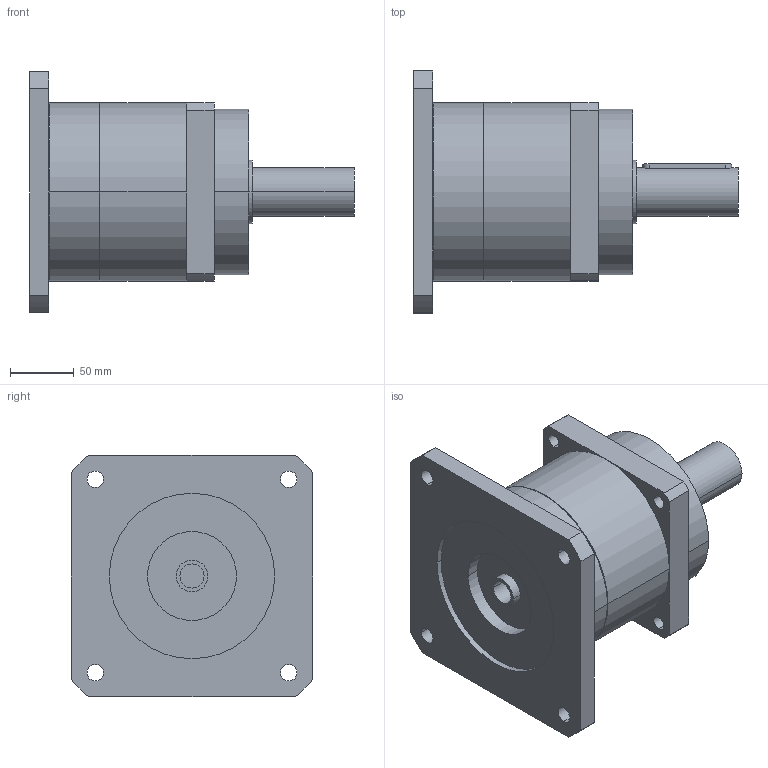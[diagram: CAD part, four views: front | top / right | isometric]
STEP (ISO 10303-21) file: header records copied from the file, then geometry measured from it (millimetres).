
FILE_DESCRIPTION(('CoCreate Modeling STEP Export'),'2;1');
FILE_NAME('GPR150_ig-3-4-5-7_38_B5_19_P13.stp','2014-08-19T16:42:14',(''),(''),'CoCreate Modeling STEP processor for AP214 (Solid Model)','CoCreate Modeling 16.00C 25-Feb-2009 (C) Parametric Technology GmbH','');
FILE_SCHEMA(('AUTOMOTIVE_DESIGN { 1 0 10303 214 1 1 1 1 }'));
Length unit declared in the file: millimetre
Products named in the file (2): GPR150_ig-3-4-5-7_38_B5_19_P13
Assembly tree (1 placements, depth 2):
  GPR150_ig-3-4-5-7_38_B5_19_P13
    GPR150_ig-3-4-5-7_38_B5_19_P13
Bounding box: 255 x 190 x 190 mm (x, y, z)
Volume: 2960448.9 mm3; surface area: 183361.7 mm2
Topology: 1 solids, 1 shells, 78 faces, 214 edges, 146 vertices
Faces by surface type: cylinder 46, plane 26, cone 6
Entity records: 2260 total; most frequent: ORIENTED_EDGE 424, CARTESIAN_POINT 421, DIRECTION 320, EDGE_CURVE 212, VERTEX_POINT 146, AXIS2_PLACEMENT_3D 117, EDGE_LOOP 104, VECTOR 86
